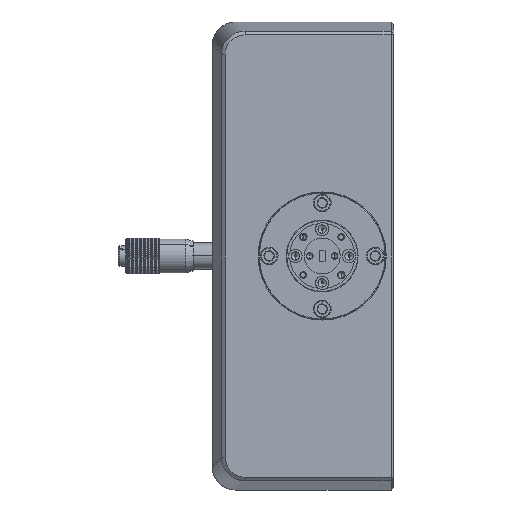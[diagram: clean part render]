
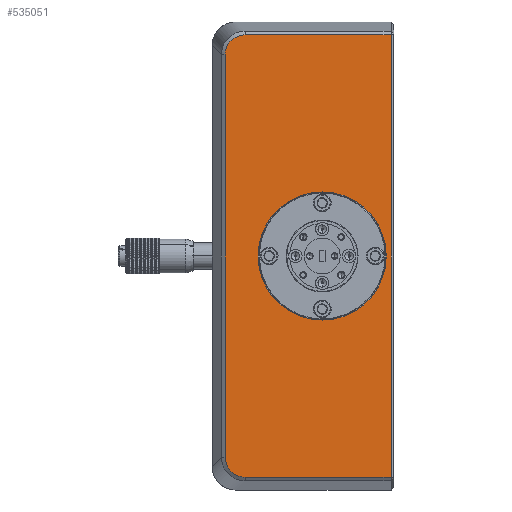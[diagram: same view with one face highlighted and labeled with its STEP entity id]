
A CAD part, left-side view. The second image highlights one B-rep face of the part: STEP entity #535051.
In plain terms, the highlighted planar face has unit normal (-1, 0, 0).
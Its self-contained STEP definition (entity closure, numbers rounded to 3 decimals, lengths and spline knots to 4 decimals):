
#164 = VECTOR ( 'NONE', #256428, 39.3701 ) ;
#6451 = CARTESIAN_POINT ( 'NONE',  ( -3.6879, 1.2965, 4.0991 ) ) ;
#34245 = DIRECTION ( 'NONE',  ( -1., 0., 0. ) ) ;
#36414 = CARTESIAN_POINT ( 'NONE',  ( -3.6879, 1.3776, -0.2876 ) ) ;
#40551 = CARTESIAN_POINT ( 'NONE',  ( -3.6879, 1.3263, 4.0712 ) ) ;
#45553 = CARTESIAN_POINT ( 'NONE',  ( -3.6879, 1.3349, -0.4017 ) ) ;
#49001 = VERTEX_POINT ( 'NONE', #262519 ) ;
#51932 = PLANE ( 'NONE',  #164496 ) ;
#52743 = CARTESIAN_POINT ( 'NONE',  ( -3.6879, 1.2232, 4.1351 ) ) ;
#55036 = EDGE_CURVE ( 'NONE', #547103, #503235, #141130, .T. ) ;
#57709 = CARTESIAN_POINT ( 'NONE',  ( -3.6879, 1.2232, -0.4761 ) ) ;
#86311 = LINE ( 'NONE', #521104, #101441 ) ;
#88808 = CARTESIAN_POINT ( 'NONE',  ( -3.6879, 1.3763, -0.3013 ) ) ;
#91848 = CARTESIAN_POINT ( 'NONE',  ( -3.6879, 1.3709, -0.3284 ) ) ;
#94877 = CARTESIAN_POINT ( 'NONE',  ( -3.6879, 1.2363, -0.4722 ) ) ;
#101441 = VECTOR ( 'NONE', #610655, 39.3701 ) ;
#125943 = CARTESIAN_POINT ( 'NONE',  ( -3.6879, 1.2965, -0.4401 ) ) ;
#126818 = CARTESIAN_POINT ( 'NONE',  ( -3.6879, 0.3625, 1.8295 ) ) ;
#136196 = CARTESIAN_POINT ( 'NONE',  ( -3.6879, 1.3501, 4.0378 ) ) ;
#141130 = CIRCLE ( 'NONE', #259131, 0.67 ) ;
#142302 = CARTESIAN_POINT ( 'NONE',  ( -3.6879, 1.367, 4.0005 ) ) ;
#153331 = AXIS2_PLACEMENT_3D ( 'NONE', #350709, #353725, #541882 ) ;
#164496 = AXIS2_PLACEMENT_3D ( 'NONE', #286389, #483673, #190796 ) ;
#170474 = CARTESIAN_POINT ( 'NONE',  ( -3.6879, 0.5625, 4.1418 ) ) ;
#177738 = CARTESIAN_POINT ( 'NONE',  ( -3.6879, 0.3625, 1.1595 ) ) ;
#181854 = ORIENTED_EDGE ( 'NONE', *, *, #516657, .T. ) ;
#181863 = DIRECTION ( 'NONE',  ( 0., -1., 0. ) ) ;
#188592 = ORIENTED_EDGE ( 'NONE', *, *, #436971, .T. ) ;
#190796 = DIRECTION ( 'NONE',  ( 0., 1., 0. ) ) ;
#196871 = FACE_BOUND ( 'NONE', #424328, .T. ) ;
#199620 = CARTESIAN_POINT ( 'NONE',  ( -3.6879, 1.1961, -0.4815 ) ) ;
#233738 = CARTESIAN_POINT ( 'NONE',  ( -3.6879, 1.3262, -0.4122 ) ) ;
#234935 = EDGE_CURVE ( 'NONE', #260959, #424646, #86311, .T. ) ;
#240929 = CARTESIAN_POINT ( 'NONE',  ( -3.6879, 1.2363, 4.1312 ) ) ;
#256428 = DIRECTION ( 'NONE',  ( 0., 0., -1. ) ) ;
#259131 = AXIS2_PLACEMENT_3D ( 'NONE', #126818, #34245, #367341 ) ;
#260959 = VERTEX_POINT ( 'NONE', #299925 ) ;
#262519 = CARTESIAN_POINT ( 'NONE',  ( -3.6879, 1.1687, 4.1418 ) ) ;
#270155 = CARTESIAN_POINT ( 'NONE',  ( -3.6879, -0.3575, 4.1418 ) ) ;
#274912 = EDGE_CURVE ( 'NONE', #503235, #547103, #419286, .T. ) ;
#278091 = CARTESIAN_POINT ( 'NONE',  ( -3.6879, 1.3763, 3.9603 ) ) ;
#280748 = EDGE_CURVE ( 'NONE', #49001, #564730, #428968, .T. ) ;
#281127 = CARTESIAN_POINT ( 'NONE',  ( -3.6879, 1.2615, 4.1208 ) ) ;
#284139 = CARTESIAN_POINT ( 'NONE',  ( -3.6879, 1.3566, 4.0257 ) ) ;
#286389 = CARTESIAN_POINT ( 'NONE',  ( -3.6879, 0.5625, 1.8295 ) ) ;
#287324 = VECTOR ( 'NONE', #181863, 39.3701 ) ;
#288123 = ORIENTED_EDGE ( 'NONE', *, *, #426762, .T. ) ;
#295497 = FACE_OUTER_BOUND ( 'NONE', #563463, .T. ) ;
#299925 = CARTESIAN_POINT ( 'NONE',  ( -3.6879, -0.3575, -0.4828 ) ) ;
#306334 = B_SPLINE_CURVE_WITH_KNOTS ( 'NONE', 3,
 ( #369542, #36414, #88808, #91848, #465152, #421893, #468212, #45553, #233738, #360439, #125943, #314109, #456059, #94877, #57709, #199620, #434085, #384755 ),
 .UNSPECIFIED., .F., .F.,
 ( 4, 2, 2, 2, 2, 2, 2, 2, 4 ),
 ( 0., 0.125, 0.25, 0.375, 0.5, 0.625, 0.75, 0.875, 1. ),
 .UNSPECIFIED. ) ;
#314109 = CARTESIAN_POINT ( 'NONE',  ( -3.6879, 1.2736, -0.4554 ) ) ;
#314822 = LINE ( 'NONE', #552336, #164 ) ;
#325968 = ORIENTED_EDGE ( 'NONE', *, *, #55036, .F. ) ;
#350709 = CARTESIAN_POINT ( 'NONE',  ( -3.6879, 0.3625, 1.8295 ) ) ;
#353725 = DIRECTION ( 'NONE',  ( -1., 0., 0. ) ) ;
#358654 = DIRECTION ( 'NONE',  ( 0., 1., 0. ) ) ;
#360439 = CARTESIAN_POINT ( 'NONE',  ( -3.6879, 1.307, -0.4315 ) ) ;
#367341 = DIRECTION ( 'NONE',  ( 0., 0., 1. ) ) ;
#369542 = CARTESIAN_POINT ( 'NONE',  ( -3.6879, 1.3776, -0.2739 ) ) ;
#376095 = CARTESIAN_POINT ( 'NONE',  ( -3.6879, 0.5625, -0.4828 ) ) ;
#384755 = CARTESIAN_POINT ( 'NONE',  ( -3.6879, 1.1687, -0.4828 ) ) ;
#416626 = EDGE_CURVE ( 'NONE', #564730, #478309, #314822, .T. ) ;
#416916 = CARTESIAN_POINT ( 'NONE',  ( -3.6879, 1.3349, 4.0607 ) ) ;
#419286 = CIRCLE ( 'NONE', #153331, 0.67 ) ;
#419962 = CARTESIAN_POINT ( 'NONE',  ( -3.6879, 1.3776, 3.9329 ) ) ;
#421893 = CARTESIAN_POINT ( 'NONE',  ( -3.6879, 1.3566, -0.3667 ) ) ;
#424328 = EDGE_LOOP ( 'NONE', ( #513551, #325968 ) ) ;
#424646 = VERTEX_POINT ( 'NONE', #270155 ) ;
#426762 = EDGE_CURVE ( 'NONE', #473301, #260959, #465638, .T. ) ;
#428968 = B_SPLINE_CURVE_WITH_KNOTS ( 'NONE', 3,
 ( #463212, #564880, #475389, #52743, #240929, #281127, #429115, #6451, #570952, #40551, #416916, #136196, #284139, #142302, #515589, #278091, #466264, #419962 ),
 .UNSPECIFIED., .F., .F.,
 ( 4, 2, 2, 2, 2, 2, 2, 2, 4 ),
 ( 0., 0.125, 0.25, 0.375, 0.5, 0.625, 0.75, 0.875, 1. ),
 .UNSPECIFIED. ) ;
#429115 = CARTESIAN_POINT ( 'NONE',  ( -3.6879, 1.2736, 4.1144 ) ) ;
#434085 = CARTESIAN_POINT ( 'NONE',  ( -3.6879, 1.1825, -0.4828 ) ) ;
#436971 = EDGE_CURVE ( 'NONE', #478309, #473301, #306334, .T. ) ;
#451216 = LINE ( 'NONE', #170474, #467511 ) ;
#456059 = CARTESIAN_POINT ( 'NONE',  ( -3.6879, 1.2615, -0.4618 ) ) ;
#460535 = CARTESIAN_POINT ( 'NONE',  ( -3.6879, 1.3776, -0.2739 ) ) ;
#463212 = CARTESIAN_POINT ( 'NONE',  ( -3.6879, 1.1687, 4.1418 ) ) ;
#465152 = CARTESIAN_POINT ( 'NONE',  ( -3.6879, 1.367, -0.3415 ) ) ;
#465638 = LINE ( 'NONE', #376095, #287324 ) ;
#466264 = CARTESIAN_POINT ( 'NONE',  ( -3.6879, 1.3776, 3.9467 ) ) ;
#467511 = VECTOR ( 'NONE', #358654, 39.3701 ) ;
#468212 = CARTESIAN_POINT ( 'NONE',  ( -3.6879, 1.3501, -0.3788 ) ) ;
#473276 = ORIENTED_EDGE ( 'NONE', *, *, #234935, .T. ) ;
#473301 = VERTEX_POINT ( 'NONE', #577685 ) ;
#475389 = CARTESIAN_POINT ( 'NONE',  ( -3.6879, 1.1961, 4.1405 ) ) ;
#478309 = VERTEX_POINT ( 'NONE', #460535 ) ;
#483673 = DIRECTION ( 'NONE',  ( 1., 0., 0. ) ) ;
#496052 = CARTESIAN_POINT ( 'NONE',  ( -3.6879, 0.3625, 2.4995 ) ) ;
#503235 = VERTEX_POINT ( 'NONE', #496052 ) ;
#513551 = ORIENTED_EDGE ( 'NONE', *, *, #274912, .F. ) ;
#515589 = CARTESIAN_POINT ( 'NONE',  ( -3.6879, 1.3709, 3.9874 ) ) ;
#516657 = EDGE_CURVE ( 'NONE', #424646, #49001, #451216, .T. ) ;
#521104 = CARTESIAN_POINT ( 'NONE',  ( -3.6879, -0.3575, 1.8295 ) ) ;
#526267 = ORIENTED_EDGE ( 'NONE', *, *, #416626, .T. ) ;
#535051 = ADVANCED_FACE ( 'NONE', ( #196871, #295497 ), #51932, .F. ) ;
#541882 = DIRECTION ( 'NONE',  ( 0., 0., 1. ) ) ;
#543612 = ORIENTED_EDGE ( 'NONE', *, *, #280748, .T. ) ;
#547103 = VERTEX_POINT ( 'NONE', #177738 ) ;
#552336 = CARTESIAN_POINT ( 'NONE',  ( -3.6879, 1.3776, 1.8295 ) ) ;
#563463 = EDGE_LOOP ( 'NONE', ( #188592, #288123, #473276, #181854, #543612, #526267 ) ) ;
#564730 = VERTEX_POINT ( 'NONE', #586109 ) ;
#564880 = CARTESIAN_POINT ( 'NONE',  ( -3.6879, 1.1824, 4.1418 ) ) ;
#570952 = CARTESIAN_POINT ( 'NONE',  ( -3.6879, 1.307, 4.0904 ) ) ;
#577685 = CARTESIAN_POINT ( 'NONE',  ( -3.6879, 1.1687, -0.4828 ) ) ;
#586109 = CARTESIAN_POINT ( 'NONE',  ( -3.6879, 1.3776, 3.9329 ) ) ;
#610655 = DIRECTION ( 'NONE',  ( 0., 0., 1. ) ) ;
